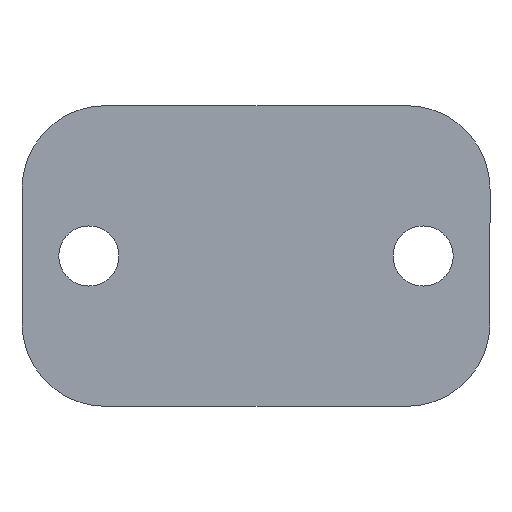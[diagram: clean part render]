
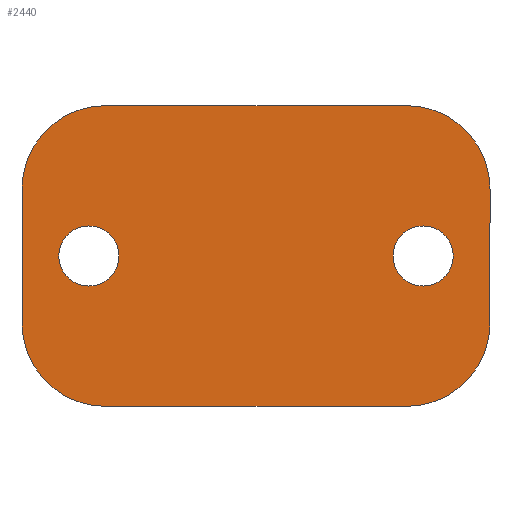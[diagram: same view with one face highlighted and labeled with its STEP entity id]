
A CAD part, front view. The second image highlights one B-rep face of the part: STEP entity #2440.
In plain terms, the highlighted planar face has unit normal (0, -1, 0).
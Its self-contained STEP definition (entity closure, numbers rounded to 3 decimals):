
#28 = DIRECTION ( 'NONE',  ( 0., -1., 0. ) ) ;
#45 = DIRECTION ( 'NONE',  ( 0., -1., 0. ) ) ;
#56 = VERTEX_POINT ( 'NONE', #814 ) ;
#153 = CARTESIAN_POINT ( 'NONE',  ( -45., -20., -20. ) ) ;
#160 = CARTESIAN_POINT ( 'NONE',  ( -70., -20., -20. ) ) ;
#183 = EDGE_LOOP ( 'NONE', ( #3567, #5348, #3267, #815, #3156, #4262, #818, #261 ) ) ;
#213 = CIRCLE ( 'NONE', #2825, 25. ) ;
#253 = DIRECTION ( 'NONE',  ( 0., 0., 1. ) ) ;
#261 = ORIENTED_EDGE ( 'NONE', *, *, #372, .T. ) ;
#333 = DIRECTION ( 'NONE',  ( 1., 0., 0. ) ) ;
#372 = EDGE_CURVE ( 'NONE', #4001, #1422, #670, .T. ) ;
#429 = FACE_BOUND ( 'NONE', #4184, .T. ) ;
#456 = PLANE ( 'NONE',  #2738 ) ;
#534 = DIRECTION ( 'NONE',  ( 0., -1., 0. ) ) ;
#663 = DIRECTION ( 'NONE',  ( 0., -1., 0. ) ) ;
#670 = LINE ( 'NONE', #1514, #4915 ) ;
#697 = DIRECTION ( 'NONE',  ( 0., 0., -1. ) ) ;
#814 = CARTESIAN_POINT ( 'NONE',  ( 70., -20., -20. ) ) ;
#815 = ORIENTED_EDGE ( 'NONE', *, *, #4454, .T. ) ;
#818 = ORIENTED_EDGE ( 'NONE', *, *, #5043, .T. ) ;
#846 = VERTEX_POINT ( 'NONE', #3681 ) ;
#896 = DIRECTION ( 'NONE',  ( 1., 0., 0. ) ) ;
#916 = CIRCLE ( 'NONE', #4632, 9. ) ;
#926 = DIRECTION ( 'NONE',  ( 1., 0., 0. ) ) ;
#1013 = CARTESIAN_POINT ( 'NONE',  ( -45., -20., 20. ) ) ;
#1106 = CIRCLE ( 'NONE', #4174, 9. ) ;
#1170 = LINE ( 'NONE', #4189, #2009 ) ;
#1343 = CARTESIAN_POINT ( 'NONE',  ( 45., -20., 20. ) ) ;
#1405 = DIRECTION ( 'NONE',  ( 1., 0., 0. ) ) ;
#1422 = VERTEX_POINT ( 'NONE', #160 ) ;
#1483 = CARTESIAN_POINT ( 'NONE',  ( -45., -20., 45. ) ) ;
#1503 = AXIS2_PLACEMENT_3D ( 'NONE', #4533, #663, #4043 ) ;
#1514 = CARTESIAN_POINT ( 'NONE',  ( -70., -20., 20. ) ) ;
#1535 = EDGE_LOOP ( 'NONE', ( #3483, #2567 ) ) ;
#1543 = CARTESIAN_POINT ( 'NONE',  ( 45., -20., -20. ) ) ;
#1544 = DIRECTION ( 'NONE',  ( 0., -1., 0. ) ) ;
#1566 = CIRCLE ( 'NONE', #2015, 25. ) ;
#1569 = CIRCLE ( 'NONE', #3007, 25. ) ;
#1616 = VERTEX_POINT ( 'NONE', #5126 ) ;
#1627 = CARTESIAN_POINT ( 'NONE',  ( 50., -20., 0. ) ) ;
#1811 = EDGE_CURVE ( 'NONE', #2589, #2356, #5492, .T. ) ;
#2009 = VECTOR ( 'NONE', #253, 1000. ) ;
#2015 = AXIS2_PLACEMENT_3D ( 'NONE', #1343, #28, #1405 ) ;
#2147 = FACE_BOUND ( 'NONE', #1535, .T. ) ;
#2186 = CIRCLE ( 'NONE', #2544, 25. ) ;
#2324 = DIRECTION ( 'NONE',  ( 0., -1., 0. ) ) ;
#2356 = VERTEX_POINT ( 'NONE', #3931 ) ;
#2408 = VERTEX_POINT ( 'NONE', #4809 ) ;
#2413 = EDGE_CURVE ( 'NONE', #1616, #3381, #4354, .T. ) ;
#2433 = CARTESIAN_POINT ( 'NONE',  ( -41., -20., 0. ) ) ;
#2440 = ADVANCED_FACE ( 'NONE', ( #429, #2147, #3455 ), #456, .T. ) ;
#2544 = AXIS2_PLACEMENT_3D ( 'NONE', #1013, #534, #926 ) ;
#2567 = ORIENTED_EDGE ( 'NONE', *, *, #1811, .F. ) ;
#2589 = VERTEX_POINT ( 'NONE', #3806 ) ;
#2686 = EDGE_CURVE ( 'NONE', #5399, #846, #1566, .T. ) ;
#2738 = AXIS2_PLACEMENT_3D ( 'NONE', #3902, #45, #5245 ) ;
#2791 = ORIENTED_EDGE ( 'NONE', *, *, #2413, .F. ) ;
#2825 = AXIS2_PLACEMENT_3D ( 'NONE', #153, #4803, #3564 ) ;
#3007 = AXIS2_PLACEMENT_3D ( 'NONE', #1543, #3326, #5058 ) ;
#3089 = DIRECTION ( 'NONE',  ( 1., 0., 0. ) ) ;
#3156 = ORIENTED_EDGE ( 'NONE', *, *, #2686, .T. ) ;
#3267 = ORIENTED_EDGE ( 'NONE', *, *, #5482, .T. ) ;
#3326 = DIRECTION ( 'NONE',  ( 0., -1., 0. ) ) ;
#3367 = AXIS2_PLACEMENT_3D ( 'NONE', #4728, #4321, #5218 ) ;
#3381 = VERTEX_POINT ( 'NONE', #2433 ) ;
#3455 = FACE_OUTER_BOUND ( 'NONE', #183, .T. ) ;
#3483 = ORIENTED_EDGE ( 'NONE', *, *, #4123, .F. ) ;
#3564 = DIRECTION ( 'NONE',  ( 1., 0., 0. ) ) ;
#3567 = ORIENTED_EDGE ( 'NONE', *, *, #3811, .T. ) ;
#3612 = DIRECTION ( 'NONE',  ( -1., 0., 0. ) ) ;
#3636 = VERTEX_POINT ( 'NONE', #5010 ) ;
#3640 = CARTESIAN_POINT ( 'NONE',  ( 70., -20., 20. ) ) ;
#3681 = CARTESIAN_POINT ( 'NONE',  ( 45., -20., 45. ) ) ;
#3732 = VECTOR ( 'NONE', #896, 1000. ) ;
#3806 = CARTESIAN_POINT ( 'NONE',  ( 41., -20., 0. ) ) ;
#3811 = EDGE_CURVE ( 'NONE', #1422, #3636, #213, .T. ) ;
#3822 = EDGE_CURVE ( 'NONE', #3636, #2408, #4435, .T. ) ;
#3902 = CARTESIAN_POINT ( 'NONE',  ( 0., -20., 0. ) ) ;
#3922 = EDGE_CURVE ( 'NONE', #846, #4308, #4027, .T. ) ;
#3931 = CARTESIAN_POINT ( 'NONE',  ( 59., -20., 0. ) ) ;
#4001 = VERTEX_POINT ( 'NONE', #4855 ) ;
#4027 = LINE ( 'NONE', #4515, #5544 ) ;
#4043 = DIRECTION ( 'NONE',  ( 1., 0., 0. ) ) ;
#4123 = EDGE_CURVE ( 'NONE', #2356, #2589, #916, .T. ) ;
#4174 = AXIS2_PLACEMENT_3D ( 'NONE', #4875, #2324, #3089 ) ;
#4184 = EDGE_LOOP ( 'NONE', ( #4438, #2791 ) ) ;
#4189 = CARTESIAN_POINT ( 'NONE',  ( 70., -20., 20. ) ) ;
#4223 = EDGE_CURVE ( 'NONE', #3381, #1616, #1106, .T. ) ;
#4262 = ORIENTED_EDGE ( 'NONE', *, *, #3922, .T. ) ;
#4308 = VERTEX_POINT ( 'NONE', #1483 ) ;
#4321 = DIRECTION ( 'NONE',  ( 0., -1., 0. ) ) ;
#4354 = CIRCLE ( 'NONE', #3367, 9. ) ;
#4376 = CARTESIAN_POINT ( 'NONE',  ( -45., -20., -45. ) ) ;
#4435 = LINE ( 'NONE', #4376, #3732 ) ;
#4438 = ORIENTED_EDGE ( 'NONE', *, *, #4223, .F. ) ;
#4454 = EDGE_CURVE ( 'NONE', #56, #5399, #1170, .T. ) ;
#4515 = CARTESIAN_POINT ( 'NONE',  ( -45., -20., 45. ) ) ;
#4533 = CARTESIAN_POINT ( 'NONE',  ( 50., -20., 0. ) ) ;
#4632 = AXIS2_PLACEMENT_3D ( 'NONE', #1627, #1544, #333 ) ;
#4728 = CARTESIAN_POINT ( 'NONE',  ( -50., -20., 0. ) ) ;
#4803 = DIRECTION ( 'NONE',  ( 0., -1., 0. ) ) ;
#4809 = CARTESIAN_POINT ( 'NONE',  ( 45., -20., -45. ) ) ;
#4855 = CARTESIAN_POINT ( 'NONE',  ( -70., -20., 20. ) ) ;
#4875 = CARTESIAN_POINT ( 'NONE',  ( -50., -20., 0. ) ) ;
#4915 = VECTOR ( 'NONE', #697, 1000. ) ;
#5010 = CARTESIAN_POINT ( 'NONE',  ( -45., -20., -45. ) ) ;
#5043 = EDGE_CURVE ( 'NONE', #4308, #4001, #2186, .T. ) ;
#5058 = DIRECTION ( 'NONE',  ( 1., 0., 0. ) ) ;
#5126 = CARTESIAN_POINT ( 'NONE',  ( -59., -20., 0. ) ) ;
#5218 = DIRECTION ( 'NONE',  ( 1., 0., 0. ) ) ;
#5245 = DIRECTION ( 'NONE',  ( 1., 0., 0. ) ) ;
#5348 = ORIENTED_EDGE ( 'NONE', *, *, #3822, .T. ) ;
#5399 = VERTEX_POINT ( 'NONE', #3640 ) ;
#5482 = EDGE_CURVE ( 'NONE', #2408, #56, #1569, .T. ) ;
#5492 = CIRCLE ( 'NONE', #1503, 9. ) ;
#5544 = VECTOR ( 'NONE', #3612, 1000. ) ;
